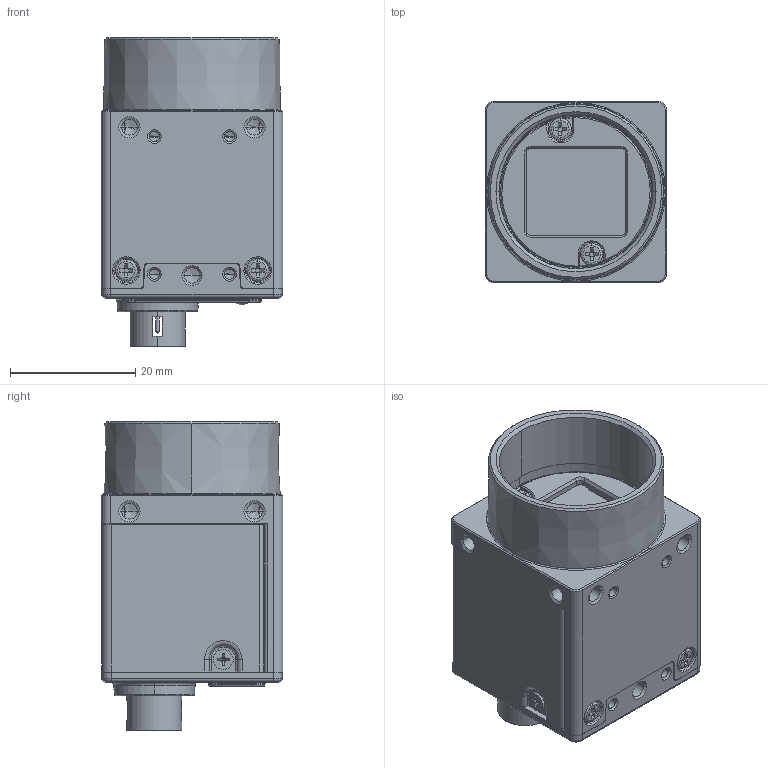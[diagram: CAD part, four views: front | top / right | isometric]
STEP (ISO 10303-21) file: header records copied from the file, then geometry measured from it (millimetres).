
FILE_DESCRIPTION((''),'2;1');
FILE_NAME('DH9-RDI000514-6001_AF9_1','2025-03-18T14:15:28',('401332'),(''),'CREO PARAMETRIC BY PTC INC, 2020184','CREO PARAMETRIC BY PTC INC, 2020184','');
FILE_SCHEMA(('CONFIG_CONTROL_DESIGN','SHAPE_APPEARANCE_LAYERS_GROUPS'));
Products named in the file (1): DH9-RDI000514-6001_AF9_1
Bounding box: 29 x 29 x 49.3 mm (x, y, z)
Volume: 10111.7 mm3; surface area: 14802.3 mm2
Topology: 1 solids, 19 shells, 2346 faces, 6266 edges, 3902 vertices
Faces by surface type: plane 994, cylinder 783, cone 230, bspline 184, torus 90, extrusion 40, sphere 25
Entity records: 104194 total; most frequent: CARTESIAN_POINT 27801, ORIENTED_EDGE 12398, DIRECTION 11522, PRESENTATION_STYLE_ASSIGNMENT 6222, STYLED_ITEM 6200, CURVE_STYLE 6199, EDGE_CURVE 6199, AXIS2_PLACEMENT_3D 3994
